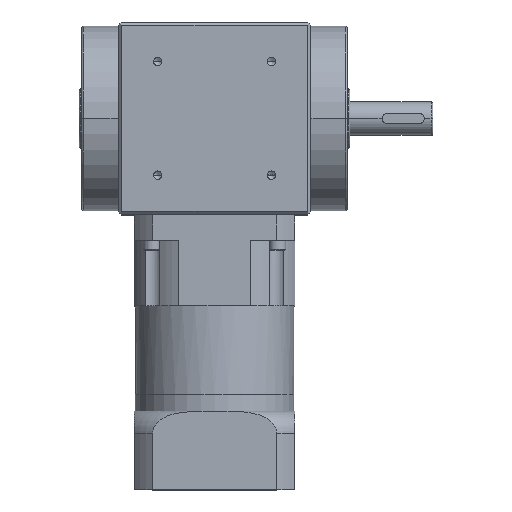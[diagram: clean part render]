
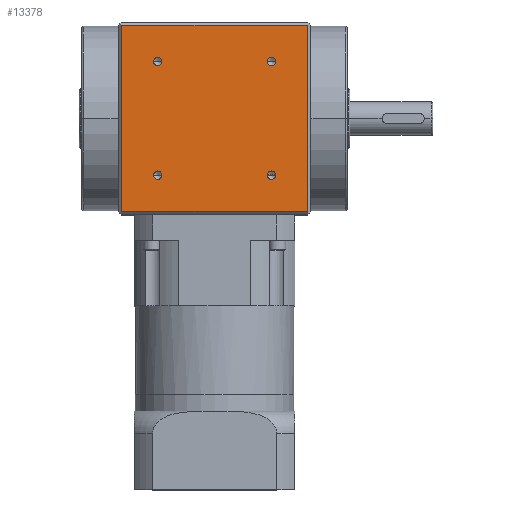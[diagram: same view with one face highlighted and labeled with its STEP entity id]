
A CAD part, top view. The second image highlights one B-rep face of the part: STEP entity #13378.
In plain terms, the highlighted planar face has unit normal (0, 0, 1).
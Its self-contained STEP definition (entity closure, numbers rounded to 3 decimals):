
#189 = CIRCLE ( 'NONE', #15745, 2.5 ) ;
#297 = CARTESIAN_POINT ( 'NONE',  ( -33.588, 159.512, 57. ) ) ;
#363 = FACE_BOUND ( 'NONE', #16852, .T. ) ;
#427 = AXIS2_PLACEMENT_3D ( 'NONE', #18432, #8963, #20030 ) ;
#1345 = AXIS2_PLACEMENT_3D ( 'NONE', #4177, #4151, #4112 ) ;
#1492 = VECTOR ( 'NONE', #2503, 1000. ) ;
#1902 = DIRECTION ( 'NONE',  ( 0., -1., 0. ) ) ;
#2000 = LINE ( 'NONE', #10426, #1492 ) ;
#2033 = AXIS2_PLACEMENT_3D ( 'NONE', #17785, #8309, #19378 ) ;
#2233 = EDGE_LOOP ( 'NONE', ( #19986, #9197 ) ) ;
#2451 = DIRECTION ( 'NONE',  ( 0., 0., 1. ) ) ;
#2503 = DIRECTION ( 'NONE',  ( -1., 0., 0. ) ) ;
#2646 = ORIENTED_EDGE ( 'NONE', *, *, #15172, .F. ) ;
#2773 = CARTESIAN_POINT ( 'NONE',  ( 54.844, 138.1, 57. ) ) ;
#3233 = ORIENTED_EDGE ( 'NONE', *, *, #14961, .F. ) ;
#3337 = CARTESIAN_POINT ( 'NONE',  ( -33.588, 226.688, 57. ) ) ;
#3786 = LINE ( 'NONE', #7339, #11690 ) ;
#4051 = ORIENTED_EDGE ( 'NONE', *, *, #19550, .F. ) ;
#4112 = DIRECTION ( 'NONE',  ( 0., -1., 0. ) ) ;
#4151 = DIRECTION ( 'NONE',  ( 0., 0., 1. ) ) ;
#4177 = CARTESIAN_POINT ( 'NONE',  ( -33.588, 226.688, 57. ) ) ;
#4599 = FACE_BOUND ( 'NONE', #4810, .T. ) ;
#4810 = EDGE_LOOP ( 'NONE', ( #2646, #17170 ) ) ;
#4815 = CARTESIAN_POINT ( 'NONE',  ( -54.844, 0., 57. ) ) ;
#4941 = DIRECTION ( 'NONE',  ( 0., -1., 0. ) ) ;
#5035 = CIRCLE ( 'NONE', #11472, 2.5 ) ;
#5074 = CARTESIAN_POINT ( 'NONE',  ( 54.844, 248.1, 57. ) ) ;
#6100 = CARTESIAN_POINT ( 'NONE',  ( 33.588, 226.688, 57. ) ) ;
#6375 = DIRECTION ( 'NONE',  ( 0., 1., 0. ) ) ;
#6500 = CARTESIAN_POINT ( 'NONE',  ( -60., 250.1, 57. ) ) ;
#7339 = CARTESIAN_POINT ( 'NONE',  ( 54.844, 0., 57. ) ) ;
#7700 = DIRECTION ( 'NONE',  ( 0., -1., 0. ) ) ;
#7702 = EDGE_CURVE ( 'NONE', #11567, #13416, #7944, .T. ) ;
#7884 = AXIS2_PLACEMENT_3D ( 'NONE', #3337, #14421, #4941 ) ;
#7944 = CIRCLE ( 'NONE', #1345, 2.5 ) ;
#8109 = DIRECTION ( 'NONE',  ( 0., 1., 0. ) ) ;
#8251 = VERTEX_POINT ( 'NONE', #15030 ) ;
#8309 = DIRECTION ( 'NONE',  ( 0., 0., 1. ) ) ;
#8315 = FACE_BOUND ( 'NONE', #2233, .T. ) ;
#8321 = EDGE_CURVE ( 'NONE', #8251, #8365, #11945, .T. ) ;
#8365 = VERTEX_POINT ( 'NONE', #9033 ) ;
#8692 = EDGE_CURVE ( 'NONE', #12365, #10234, #20532, .T. ) ;
#8824 = FACE_BOUND ( 'NONE', #17495, .T. ) ;
#8963 = DIRECTION ( 'NONE',  ( 0., 0., 1. ) ) ;
#9033 = CARTESIAN_POINT ( 'NONE',  ( -33.588, 157.012, 57. ) ) ;
#9057 = CARTESIAN_POINT ( 'NONE',  ( 33.588, 226.688, 57. ) ) ;
#9195 = CARTESIAN_POINT ( 'NONE',  ( -54.844, 248.1, 57. ) ) ;
#9197 = ORIENTED_EDGE ( 'NONE', *, *, #9367, .F. ) ;
#9367 = EDGE_CURVE ( 'NONE', #17703, #12727, #5035, .T. ) ;
#9742 = CIRCLE ( 'NONE', #18639, 2.5 ) ;
#9952 = ORIENTED_EDGE ( 'NONE', *, *, #8321, .F. ) ;
#10009 = CARTESIAN_POINT ( 'NONE',  ( 33.588, 157.012, 57. ) ) ;
#10234 = VERTEX_POINT ( 'NONE', #10009 ) ;
#10254 = VECTOR ( 'NONE', #20272, 1000. ) ;
#10426 = CARTESIAN_POINT ( 'NONE',  ( -60., 138.1, 57. ) ) ;
#10586 = ORIENTED_EDGE ( 'NONE', *, *, #17748, .F. ) ;
#10659 = CARTESIAN_POINT ( 'NONE',  ( -54.844, 138.1, 57. ) ) ;
#10664 = DIRECTION ( 'NONE',  ( 0., -1., 0. ) ) ;
#11199 = LINE ( 'NONE', #12218, #10254 ) ;
#11292 = CARTESIAN_POINT ( 'NONE',  ( -33.588, 224.188, 57. ) ) ;
#11398 = DIRECTION ( 'NONE',  ( 0., 0., 1. ) ) ;
#11472 = AXIS2_PLACEMENT_3D ( 'NONE', #9057, #20136, #10664 ) ;
#11567 = VERTEX_POINT ( 'NONE', #17218 ) ;
#11690 = VECTOR ( 'NONE', #13715, 1000. ) ;
#11934 = CARTESIAN_POINT ( 'NONE',  ( 33.588, 159.512, 57. ) ) ;
#11945 = CIRCLE ( 'NONE', #427, 2.5 ) ;
#12159 = CARTESIAN_POINT ( 'NONE',  ( 33.588, 162.012, 57. ) ) ;
#12218 = CARTESIAN_POINT ( 'NONE',  ( -60., 248.1, 57. ) ) ;
#12365 = VERTEX_POINT ( 'NONE', #12159 ) ;
#12727 = VERTEX_POINT ( 'NONE', #12824 ) ;
#12824 = CARTESIAN_POINT ( 'NONE',  ( 33.588, 224.188, 57. ) ) ;
#13294 = CIRCLE ( 'NONE', #13974, 2.5 ) ;
#13378 = ADVANCED_FACE ( 'NONE', ( #4599, #8315, #363, #8824, #16738 ), #19123, .F. ) ;
#13416 = VERTEX_POINT ( 'NONE', #11292 ) ;
#13497 = DIRECTION ( 'NONE',  ( 0., -1., 0. ) ) ;
#13715 = DIRECTION ( 'NONE',  ( 0., -1., 0. ) ) ;
#13974 = AXIS2_PLACEMENT_3D ( 'NONE', #11934, #2451, #13497 ) ;
#14421 = DIRECTION ( 'NONE',  ( 0., 0., 1. ) ) ;
#14504 = VERTEX_POINT ( 'NONE', #9195 ) ;
#14813 = EDGE_CURVE ( 'NONE', #8365, #8251, #9742, .T. ) ;
#14908 = CARTESIAN_POINT ( 'NONE',  ( 33.588, 229.188, 57. ) ) ;
#14961 = EDGE_CURVE ( 'NONE', #10234, #12365, #13294, .T. ) ;
#15030 = CARTESIAN_POINT ( 'NONE',  ( -33.588, 162.012, 57. ) ) ;
#15075 = EDGE_CURVE ( 'NONE', #12727, #17703, #189, .T. ) ;
#15172 = EDGE_CURVE ( 'NONE', #13416, #11567, #16814, .T. ) ;
#15351 = ORIENTED_EDGE ( 'NONE', *, *, #14813, .F. ) ;
#15677 = LINE ( 'NONE', #4815, #18873 ) ;
#15745 = AXIS2_PLACEMENT_3D ( 'NONE', #6100, #17200, #7700 ) ;
#16075 = VERTEX_POINT ( 'NONE', #10659 ) ;
#16306 = ORIENTED_EDGE ( 'NONE', *, *, #19733, .F. ) ;
#16445 = ORIENTED_EDGE ( 'NONE', *, *, #8692, .F. ) ;
#16738 = FACE_OUTER_BOUND ( 'NONE', #19031, .T. ) ;
#16814 = CIRCLE ( 'NONE', #7884, 2.5 ) ;
#16852 = EDGE_LOOP ( 'NONE', ( #3233, #16445 ) ) ;
#17170 = ORIENTED_EDGE ( 'NONE', *, *, #7702, .F. ) ;
#17200 = DIRECTION ( 'NONE',  ( 0., 0., 1. ) ) ;
#17218 = CARTESIAN_POINT ( 'NONE',  ( -33.588, 229.188, 57. ) ) ;
#17495 = EDGE_LOOP ( 'NONE', ( #15351, #9952 ) ) ;
#17584 = VERTEX_POINT ( 'NONE', #5074 ) ;
#17595 = DIRECTION ( 'NONE',  ( 0., 0., -1. ) ) ;
#17703 = VERTEX_POINT ( 'NONE', #14908 ) ;
#17748 = EDGE_CURVE ( 'NONE', #20310, #16075, #2000, .T. ) ;
#17785 = CARTESIAN_POINT ( 'NONE',  ( 33.588, 159.512, 57. ) ) ;
#18045 = AXIS2_PLACEMENT_3D ( 'NONE', #6500, #17595, #8109 ) ;
#18432 = CARTESIAN_POINT ( 'NONE',  ( -33.588, 159.512, 57. ) ) ;
#18639 = AXIS2_PLACEMENT_3D ( 'NONE', #297, #11398, #1902 ) ;
#18873 = VECTOR ( 'NONE', #6375, 1000. ) ;
#19031 = EDGE_LOOP ( 'NONE', ( #4051, #19322, #16306, #10586 ) ) ;
#19123 = PLANE ( 'NONE',  #18045 ) ;
#19322 = ORIENTED_EDGE ( 'NONE', *, *, #19615, .F. ) ;
#19378 = DIRECTION ( 'NONE',  ( 0., -1., 0. ) ) ;
#19550 = EDGE_CURVE ( 'NONE', #17584, #20310, #3786, .T. ) ;
#19615 = EDGE_CURVE ( 'NONE', #14504, #17584, #11199, .T. ) ;
#19733 = EDGE_CURVE ( 'NONE', #16075, #14504, #15677, .T. ) ;
#19986 = ORIENTED_EDGE ( 'NONE', *, *, #15075, .F. ) ;
#20030 = DIRECTION ( 'NONE',  ( 0., -1., 0. ) ) ;
#20136 = DIRECTION ( 'NONE',  ( 0., 0., 1. ) ) ;
#20272 = DIRECTION ( 'NONE',  ( 1., 0., 0. ) ) ;
#20310 = VERTEX_POINT ( 'NONE', #2773 ) ;
#20532 = CIRCLE ( 'NONE', #2033, 2.5 ) ;
